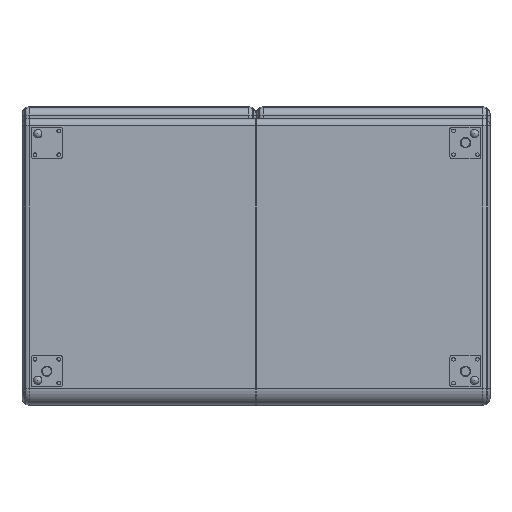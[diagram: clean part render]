
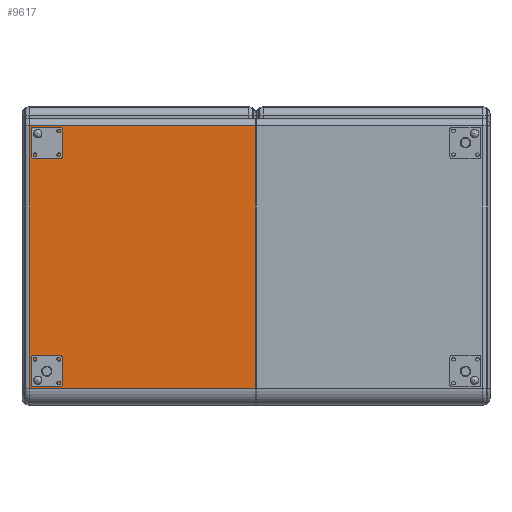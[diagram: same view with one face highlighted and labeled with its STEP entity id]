
A CAD part, front view. The second image highlights one B-rep face of the part: STEP entity #9617.
In plain terms, the highlighted planar face has unit normal (0, -1, 0).
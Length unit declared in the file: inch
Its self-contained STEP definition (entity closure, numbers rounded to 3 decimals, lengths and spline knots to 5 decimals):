
#677=PLANE('',#11079);
#1055=LINE('',#20404,#1465);
#1063=LINE('',#20433,#1473);
#1064=LINE('',#20437,#1474);
#1065=LINE('',#20438,#1475);
#1465=VECTOR('',#14290,0.3937);
#1473=VECTOR('',#14324,0.3937);
#1474=VECTOR('',#14329,0.3937);
#1475=VECTOR('',#14330,0.3937);
#2169=FACE_OUTER_BOUND('',#2863,.T.);
#2863=EDGE_LOOP('',(#8613,#8614,#8615,#8616));
#4524=VERTEX_POINT('',#20396);
#4526=VERTEX_POINT('',#20402);
#4534=VERTEX_POINT('',#20432);
#4535=VERTEX_POINT('',#20436);
#5888=EDGE_CURVE('',#4526,#4524,#1055,.T.);
#5903=EDGE_CURVE('',#4534,#4524,#1063,.T.);
#5905=EDGE_CURVE('',#4535,#4526,#1064,.T.);
#5906=EDGE_CURVE('',#4534,#4535,#1065,.T.);
#8613=ORIENTED_EDGE('',*,*,#5888,.F.);
#8614=ORIENTED_EDGE('',*,*,#5905,.F.);
#8615=ORIENTED_EDGE('',*,*,#5906,.F.);
#8616=ORIENTED_EDGE('',*,*,#5903,.T.);
#9617=ADVANCED_FACE('',(#2169),#677,.T.);
#11079=AXIS2_PLACEMENT_3D('',#20435,#14327,#14328);
#14290=DIRECTION('',(0.,0.,-1.));
#14324=DIRECTION('',(1.,0.,0.));
#14327=DIRECTION('center_axis',(0.,-1.,0.));
#14328=DIRECTION('ref_axis',(1.,0.,0.));
#14329=DIRECTION('',(1.,0.,0.));
#14330=DIRECTION('',(0.,0.,1.));
#20396=CARTESIAN_POINT('',(111.06454,0.,-98.02802));
#20402=CARTESIAN_POINT('',(111.06454,0.,-70.52802));
#20404=CARTESIAN_POINT('',(111.06454,0.,-67.33352));
#20432=CARTESIAN_POINT('',(87.33454,0.,-98.02802));
#20433=CARTESIAN_POINT('',(111.08454,0.,-98.02802));
#20435=CARTESIAN_POINT('Origin',(86.58454,0.,-99.77802));
#20436=CARTESIAN_POINT('',(87.33454,0.,-70.52802));
#20437=CARTESIAN_POINT('',(92.70954,0.,-70.52802));
#20438=CARTESIAN_POINT('',(87.33454,0.,-97.84052));
